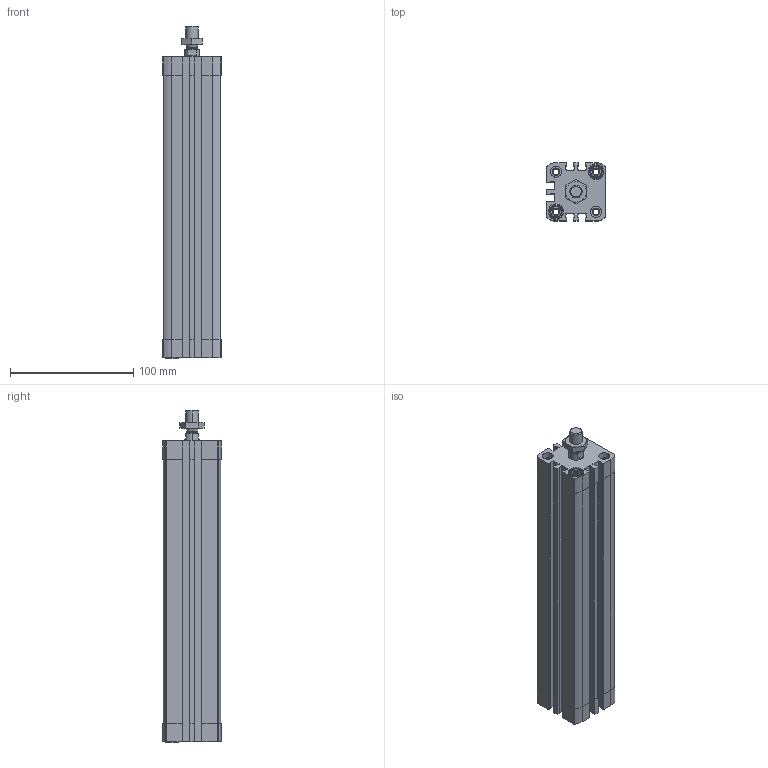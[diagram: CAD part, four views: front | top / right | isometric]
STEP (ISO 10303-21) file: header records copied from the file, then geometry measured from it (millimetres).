
FILE_DESCRIPTION (( 'STEP AP203' ), '1' );
FILE_NAME ('CCN32-200M.STEP', '2017-03-29T13:34:57', ( '' ), ( '' ), 'SwSTEP 2.0', 'SolidWorks 2016', '' );
FILE_SCHEMA (( 'CONFIG_CONTROL_DESIGN' ));
Length unit declared in the file: millimetre
Products named in the file (4): CCN-200---(Z); CCN-200_(KS); _DIN-439-B - M10x1.25(F); CCN32-200M
Assembly tree (3 placements, depth 2):
  CCN32-200M
    CCN-200---(Z)
    CCN-200_(KS)
    _DIN-439-B - M10x1.25(F)
Bounding box: 47 x 47 x 269 mm (x, y, z)
Volume: 307153.6 mm3; surface area: 123234.8 mm2
Topology: 3 solids, 3 shells, 499 faces, 1340 edges, 878 vertices
Faces by surface type: plane 275, cylinder 172, cone 48, bspline 4
Entity records: 16306 total; most frequent: CARTESIAN_POINT 3131, DIRECTION 2732, ORIENTED_EDGE 2680, EDGE_CURVE 1340, AXIS2_PLACEMENT_3D 1003, VERTEX_POINT 878, VECTOR 726, LINE 726
